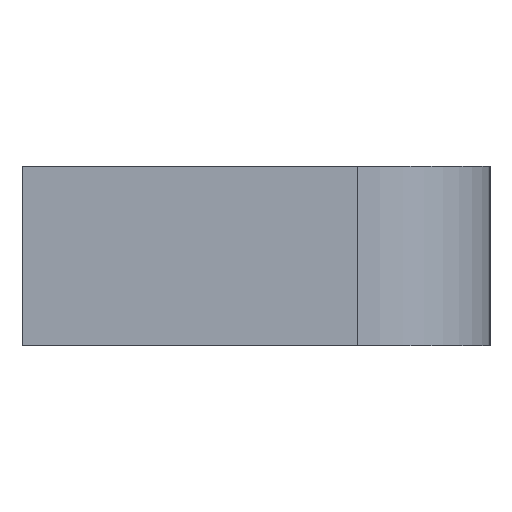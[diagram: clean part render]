
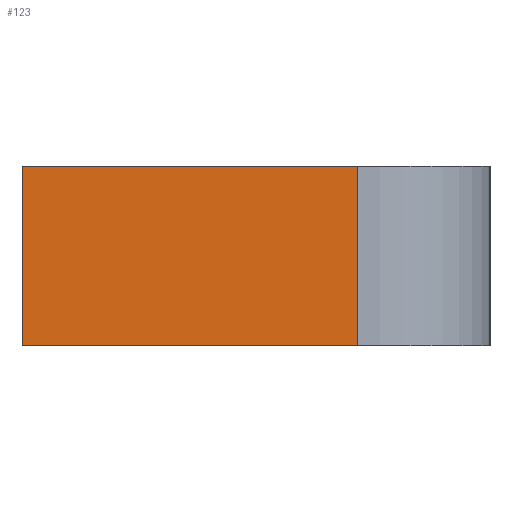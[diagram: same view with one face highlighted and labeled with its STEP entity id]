
A CAD part, left-side view. The second image highlights one B-rep face of the part: STEP entity #123.
In plain terms, the highlighted planar face has unit normal (-1, 0, 0).
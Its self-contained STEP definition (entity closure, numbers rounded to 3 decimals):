
#123 = ADVANCED_FACE( '', ( #239 ), #240, .F. );
#239 = FACE_OUTER_BOUND( '', #343, .T. );
#240 = PLANE( '', #344 );
#343 = EDGE_LOOP( '', ( #562, #563, #564, #565 ) );
#344 = AXIS2_PLACEMENT_3D( '', #566, #567, #568 );
#562 = ORIENTED_EDGE( '', *, *, #667, .T. );
#563 = ORIENTED_EDGE( '', *, *, #686, .F. );
#564 = ORIENTED_EDGE( '', *, *, #610, .F. );
#565 = ORIENTED_EDGE( '', *, *, #632, .T. );
#566 = CARTESIAN_POINT( '', ( -7., 0., 7.1 ) );
#567 = DIRECTION( '', ( 1., 0., 0. ) );
#568 = DIRECTION( '', ( 0., 0., -1. ) );
#610 = EDGE_CURVE( '', #711, #713, #714, .T. );
#632 = EDGE_CURVE( '', #711, #747, #749, .T. );
#667 = EDGE_CURVE( '', #747, #798, #800, .T. );
#686 = EDGE_CURVE( '', #713, #798, #822, .T. );
#711 = VERTEX_POINT( '', #855 );
#713 = VERTEX_POINT( '', #858 );
#714 = LINE( '', #859, #860 );
#747 = VERTEX_POINT( '', #903 );
#749 = LINE( '', #906, #907 );
#798 = VERTEX_POINT( '', #976 );
#800 = LINE( '', #978, #979 );
#822 = LINE( '', #1009, #1010 );
#855 = CARTESIAN_POINT( '', ( -7., 0., 7.1 ) );
#858 = CARTESIAN_POINT( '', ( -7., -26.5, 7.1 ) );
#859 = CARTESIAN_POINT( '', ( -7., 0., 7.1 ) );
#860 = VECTOR( '', #1026, 1000. );
#903 = CARTESIAN_POINT( '', ( -7., 0., -7.1 ) );
#906 = CARTESIAN_POINT( '', ( -7., 0., 7.1 ) );
#907 = VECTOR( '', #1050, 1000. );
#976 = CARTESIAN_POINT( '', ( -7., -26.5, -7.1 ) );
#978 = CARTESIAN_POINT( '', ( -7., 0., -7.1 ) );
#979 = VECTOR( '', #1086, 1000. );
#1009 = CARTESIAN_POINT( '', ( -7., -26.5, 7.1 ) );
#1010 = VECTOR( '', #1101, 1000. );
#1026 = DIRECTION( '', ( 0., -1., 0. ) );
#1050 = DIRECTION( '', ( 0., 0., -1. ) );
#1086 = DIRECTION( '', ( 0., -1., 0. ) );
#1101 = DIRECTION( '', ( 0., 0., -1. ) );
